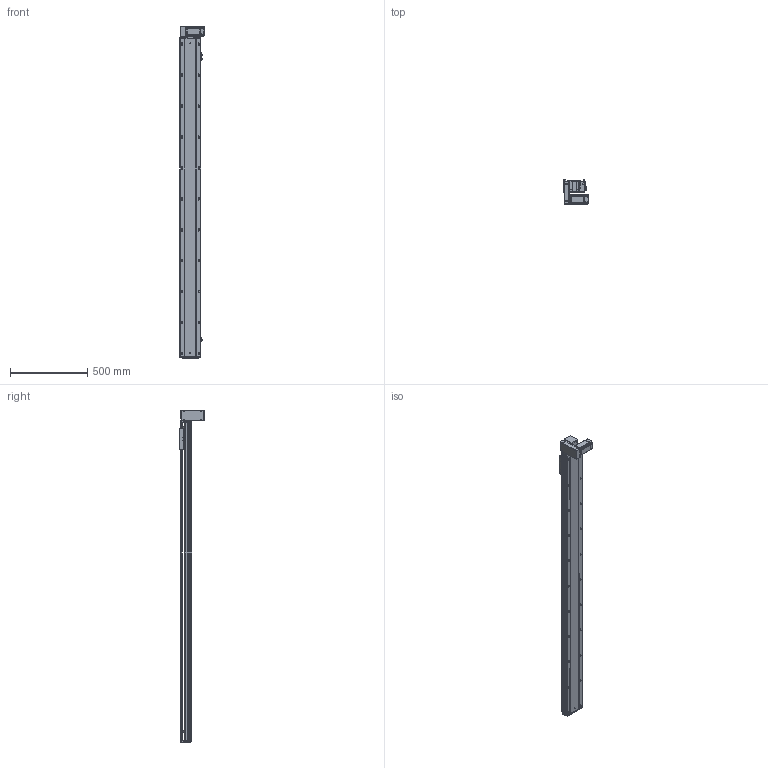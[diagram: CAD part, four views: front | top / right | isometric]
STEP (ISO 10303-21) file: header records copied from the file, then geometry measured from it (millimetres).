
FILE_DESCRIPTION (( 'STEP AP203' ), '1' );
FILE_NAME ('RY140-T-300-DL.SLDASM_1800.step', '2021-03-01T06:07:34', ( '盈信电脑' ), ( '东莞市道滘镇水果街19号' ), 'SwSTEP 2.0', 'SolidWorks 2012', '' );
FILE_SCHEMA (( 'CONFIG_CONTROL_DESIGN' ));
Length unit declared in the file: millimetre
Products named in the file (18): RY140-T翋肮謫裔啣; 滅袉蝶18-10; RY140-T-300-DL.SLDASM_1800; RY140-T萇儂欶; RY120-T主同步轮轴承压盖; RY120-T蹟翐M4; 侂狟400W侜督萇儂; RY140-T萇儂假蚾啣; RY140-T翋肮祭謫盓傅釱; RY120-T肮祭湍揤踡輸1; 15; RY140綴裔啣; RY120外置感应片(140共用）; 覜茼ん672; RY120-T肮祭湍揤踡輸2; RY140-T-300-DL倰第菁釱_1800; RY140-T-300-DL倰第奻裔啣_1800; RY140肮祭謫臏賑輸
Assembly tree (23 placements, depth 3):
  RY140-T-300-DL.SLDASM_1800
    RY140-T-300-DL倰第菁釱_1800
    RY140肮祭謫臏賑輸
    RY140-T-300-DL倰第奻裔啣_1800
    RY140綴裔啣
    覜茼ん672  x3
    RY120外置感应片(140共用）
    RY120-T肮祭湍揤踡輸2
    RY120-T肮祭湍揤踡輸1
    RY140-T翋肮祭謫盓傅釱
    RY140-T萇儂假蚾啣
    侂狟400W侜督萇儂
      15
    RY120-T主同步轮轴承压盖
    RY120-T蹟翐M4  x4
    RY140-T萇儂欶
    滅袉蝶18-10  x2
    RY140-T翋肮謫裔啣
Bounding box: 157 x 158.5 x 2146 mm (x, y, z)
Volume: 5909342.4 mm3; surface area: 2305964.8 mm2
Topology: 22 solids, 22 shells, 2862 faces, 7862 edges, 5008 vertices
Faces by surface type: plane 1389, cylinder 1095, cone 278, bspline 100
Entity records: 90576 total; most frequent: CARTESIAN_POINT 21975, ORIENTED_EDGE 14092, DIRECTION 13476, EDGE_CURVE 7046, VERTEX_POINT 4607, AXIS2_PLACEMENT_3D 4533, LINE 4410, VECTOR 4410
